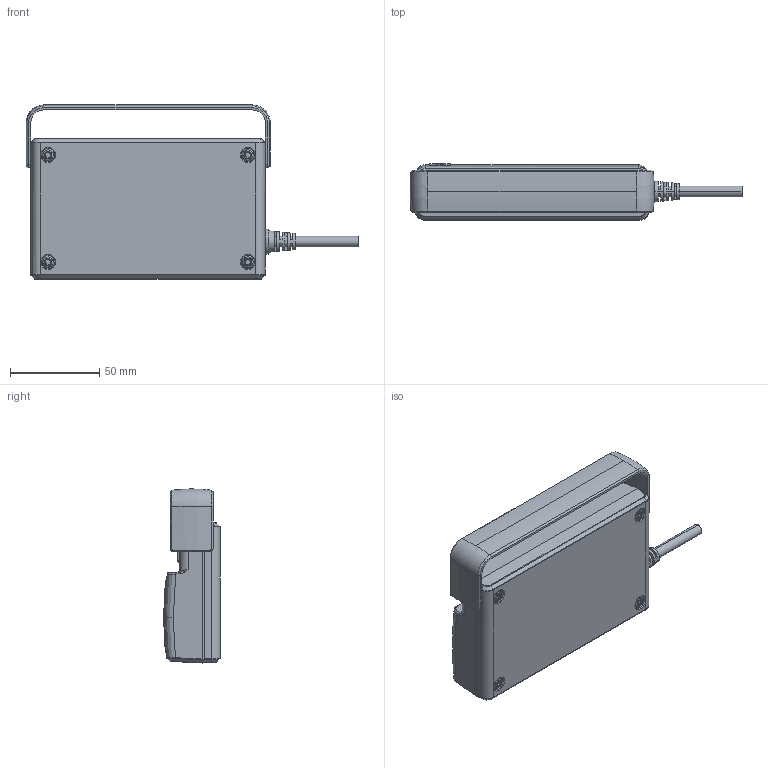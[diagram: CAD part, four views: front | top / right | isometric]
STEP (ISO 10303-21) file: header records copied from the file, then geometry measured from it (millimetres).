
FILE_DESCRIPTION (( 'STEP AP203' ), '1' );
FILE_NAME ('3D_TC23.STEP', '2020-09-15T11:11:45', ( '' ), ( '' ), 'SwSTEP 2.0', 'SolidWorks 2015', '' );
FILE_SCHEMA (( 'CONFIG_CONTROL_DESIGN' ));
Products named in the file (1): 3D_TC23
Bounding box: 186.06 x 31.5 x 97.57 mm (x, y, z)
Volume: 115339.2 mm3; surface area: 112253.4 mm2
Topology: 14 solids, 14 shells, 2164 faces, 5650 edges, 3658 vertices
Faces by surface type: plane 1321, cylinder 471, bspline 210, cone 116, torus 30, sphere 16
Entity records: 77484 total; most frequent: CARTESIAN_POINT 26588, ORIENTED_EDGE 11296, DIRECTION 9398, EDGE_CURVE 5648, LINE 3842, VECTOR 3842, VERTEX_POINT 3658, AXIS2_PLACEMENT_3D 2778
